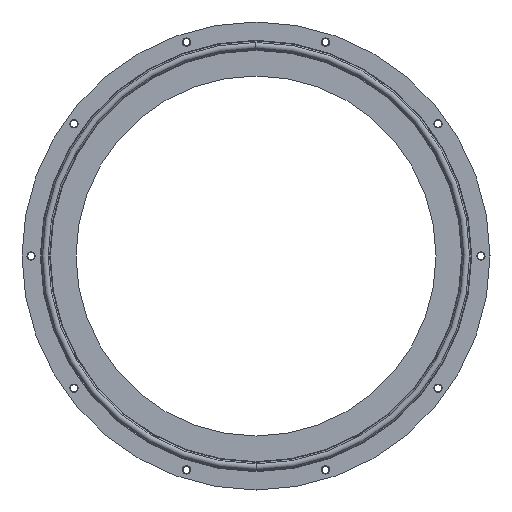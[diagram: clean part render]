
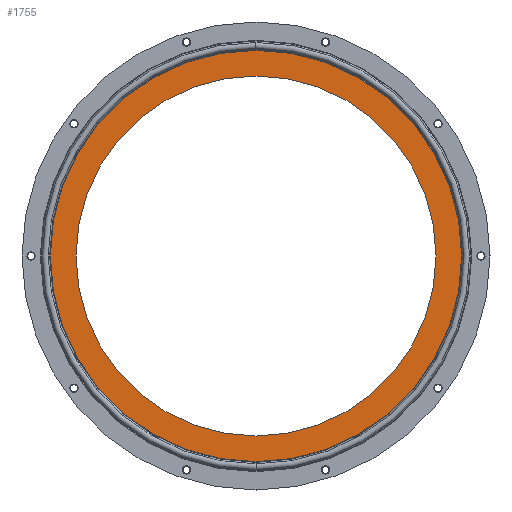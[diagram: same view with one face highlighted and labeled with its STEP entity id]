
A CAD part, left-side view. The second image highlights one B-rep face of the part: STEP entity #1755.
In plain terms, the highlighted planar face has unit normal (-1, 0, 0).
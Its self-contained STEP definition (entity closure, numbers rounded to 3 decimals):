
#65 = DIRECTION ( 'NONE',  ( 0., 0., 1. ) ) ;
#95 = CARTESIAN_POINT ( 'NONE',  ( 0., 0., 0. ) ) ;
#117 = ORIENTED_EDGE ( 'NONE', *, *, #2142, .T. ) ;
#153 = CARTESIAN_POINT ( 'NONE',  ( 0., 0., -63.5 ) ) ;
#240 = CIRCLE ( 'NONE', #2632, 72.571 ) ;
#396 = VERTEX_POINT ( 'NONE', #512 ) ;
#402 = DIRECTION ( 'NONE',  ( -1., 0., 0. ) ) ;
#508 = CARTESIAN_POINT ( 'NONE',  ( 0., 0., -72.571 ) ) ;
#512 = CARTESIAN_POINT ( 'NONE',  ( 0., 0., 63.5 ) ) ;
#519 = ORIENTED_EDGE ( 'NONE', *, *, #1395, .T. ) ;
#709 = CIRCLE ( 'NONE', #2888, 63.5 ) ;
#711 = DIRECTION ( 'NONE',  ( 0., 0., 1. ) ) ;
#765 = EDGE_CURVE ( 'NONE', #396, #831, #2212, .T. ) ;
#831 = VERTEX_POINT ( 'NONE', #153 ) ;
#1064 = DIRECTION ( 'NONE',  ( 1., 0., 0. ) ) ;
#1136 = PLANE ( 'NONE',  #1715 ) ;
#1199 = DIRECTION ( 'NONE',  ( 1., 0., 0. ) ) ;
#1277 = DIRECTION ( 'NONE',  ( -1., 0., 0. ) ) ;
#1290 = VERTEX_POINT ( 'NONE', #1376 ) ;
#1376 = CARTESIAN_POINT ( 'NONE',  ( 0., 0., 72.571 ) ) ;
#1395 = EDGE_CURVE ( 'NONE', #831, #396, #709, .T. ) ;
#1399 = DIRECTION ( 'NONE',  ( -1., 0., 0. ) ) ;
#1456 = CARTESIAN_POINT ( 'NONE',  ( 0., 0., 0. ) ) ;
#1467 = DIRECTION ( 'NONE',  ( 0., 0., -1. ) ) ;
#1554 = CARTESIAN_POINT ( 'NONE',  ( 0., 0., 0. ) ) ;
#1715 = AXIS2_PLACEMENT_3D ( 'NONE', #95, #1399, #65 ) ;
#1755 = ADVANCED_FACE ( 'NONE', ( #1822, #3286 ), #1136, .T. ) ;
#1822 = FACE_OUTER_BOUND ( 'NONE', #3199, .T. ) ;
#1833 = DIRECTION ( 'NONE',  ( 0., 0., -1. ) ) ;
#2093 = VERTEX_POINT ( 'NONE', #508 ) ;
#2142 = EDGE_CURVE ( 'NONE', #2093, #1290, #2147, .T. ) ;
#2147 = CIRCLE ( 'NONE', #3045, 72.571 ) ;
#2212 = CIRCLE ( 'NONE', #2741, 63.5 ) ;
#2302 = CARTESIAN_POINT ( 'NONE',  ( 0., 0., 0. ) ) ;
#2326 = ORIENTED_EDGE ( 'NONE', *, *, #765, .T. ) ;
#2514 = ORIENTED_EDGE ( 'NONE', *, *, #2703, .T. ) ;
#2632 = AXIS2_PLACEMENT_3D ( 'NONE', #1456, #402, #3258 ) ;
#2703 = EDGE_CURVE ( 'NONE', #1290, #2093, #240, .T. ) ;
#2741 = AXIS2_PLACEMENT_3D ( 'NONE', #2982, #1199, #1467 ) ;
#2888 = AXIS2_PLACEMENT_3D ( 'NONE', #1554, #1064, #1833 ) ;
#2982 = CARTESIAN_POINT ( 'NONE',  ( 0., 0., 0. ) ) ;
#3045 = AXIS2_PLACEMENT_3D ( 'NONE', #2302, #1277, #711 ) ;
#3199 = EDGE_LOOP ( 'NONE', ( #117, #2514 ) ) ;
#3258 = DIRECTION ( 'NONE',  ( 0., 0., 1. ) ) ;
#3286 = FACE_BOUND ( 'NONE', #3361, .T. ) ;
#3361 = EDGE_LOOP ( 'NONE', ( #519, #2326 ) ) ;
